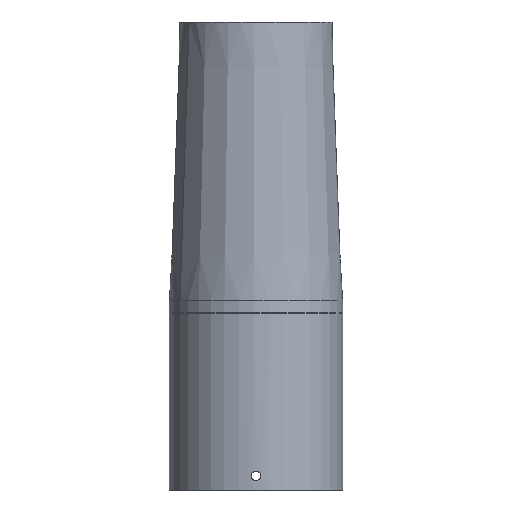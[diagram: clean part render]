
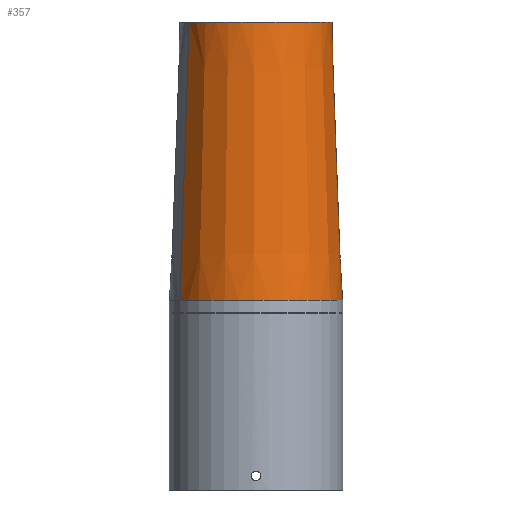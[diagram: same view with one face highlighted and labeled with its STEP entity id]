
A CAD part, left-side view. The second image highlights one B-rep face of the part: STEP entity #357.
In plain terms, the highlighted conical face has half-angle 2.138 degrees and reference radius 21.5 mm.
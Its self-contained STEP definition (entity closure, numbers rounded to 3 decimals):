
#296=CARTESIAN_POINT('Vertex',(10.308,-18.868,132.)) ;
#298=CARTESIAN_POINT('Vertex',(-10.308,18.868,132.)) ;
#301=CARTESIAN_POINT('Axis2P3D Location',(0.,0.,132.)) ;
#315=CARTESIAN_POINT('Axis2P3D Location',(0.,0.,132.)) ;
#320=CARTESIAN_POINT('Line Origine',(-11.01,20.154,92.745)) ;
#324=CARTESIAN_POINT('Vertex',(-11.713,21.44,53.489)) ;
#327=CARTESIAN_POINT('Line Origine',(11.01,-20.154,92.745)) ;
#331=CARTESIAN_POINT('Vertex',(11.713,-21.44,53.489)) ;
#346=CARTESIAN_POINT('Axis2P3D Location',(0.,0.,53.489)) ;
#322=VECTOR('Line Direction',#321,1.) ;
#329=VECTOR('Line Direction',#328,1.) ;
#302=DIRECTION('Axis2P3D Direction',(0.,0.,1.)) ;
#316=DIRECTION('Axis2P3D Direction',(-0.,-0.,-1.)) ;
#317=DIRECTION('Axis2P3D XDirection',(-0.479,0.878,0.)) ;
#321=DIRECTION('Vector Direction',(-0.018,0.033,-0.999)) ;
#328=DIRECTION('Vector Direction',(0.018,-0.033,-0.999)) ;
#347=DIRECTION('Axis2P3D Direction',(0.,0.,-1.)) ;
#303=AXIS2_PLACEMENT_3D('Circle Axis2P3D',#301,#302,$) ;
#318=AXIS2_PLACEMENT_3D('Cone Axis2P3D',#315,#316,#317) ;
#348=AXIS2_PLACEMENT_3D('Circle Axis2P3D',#346,#347,$) ;
#323=LINE('Line',#320,#322) ;
#330=LINE('Line',#327,#329) ;
#304=CIRCLE('generated circle',#303,21.5) ;
#349=CIRCLE('generated circle',#348,24.43) ;
#319=CONICAL_SURFACE('Cone',#318,21.5,0.037) ;
#305=EDGE_CURVE('',#299,#297,#304,.T.) ;
#326=EDGE_CURVE('',#325,#299,#323,.F.) ;
#333=EDGE_CURVE('',#332,#297,#330,.F.) ;
#350=EDGE_CURVE('',#325,#332,#349,.F.) ;
#351=EDGE_LOOP('',(#352,#353,#354,#355)) ;
#352=ORIENTED_EDGE('',*,*,#333,.T.) ;
#353=ORIENTED_EDGE('',*,*,#305,.F.) ;
#354=ORIENTED_EDGE('',*,*,#326,.F.) ;
#355=ORIENTED_EDGE('',*,*,#350,.T.) ;
#297=VERTEX_POINT('',#296) ;
#299=VERTEX_POINT('',#298) ;
#325=VERTEX_POINT('',#324) ;
#332=VERTEX_POINT('',#331) ;
#357=ADVANCED_FACE('Corps principal',(#356),#319,.T.) ;
#356=FACE_OUTER_BOUND('',#351,.T.) ;
